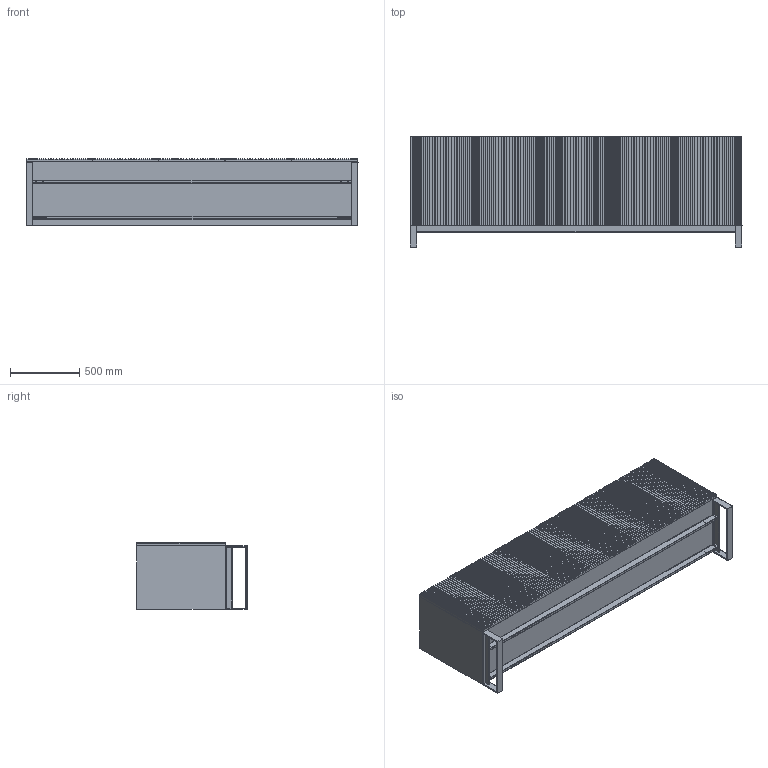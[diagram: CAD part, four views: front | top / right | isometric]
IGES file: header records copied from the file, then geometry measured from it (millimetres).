
Start section: SolidWorks IGES file using analytic representation for surfaces
Global section: file name: C:\Users\Matteo\Desktop\_Horm\_carlos\_collezione carlos\_IGS CARLOS\CARLOS cm 240X49X80H.IGS; native system: SolidWorks 2010; preprocessor: SolidWorks 2010; author: Matteo; date: 160224.162131; units: millimetre
Bounding box: 2400 x 800 x 484 mm (x, y, z)
Surface area: 14135396.9 mm2 (no closed solid volume)
Topology: 0 solids, 0 shells, 2096 faces, 15850 edges, 15842 vertices
Faces by surface type: bspline 1714, revolution 382
